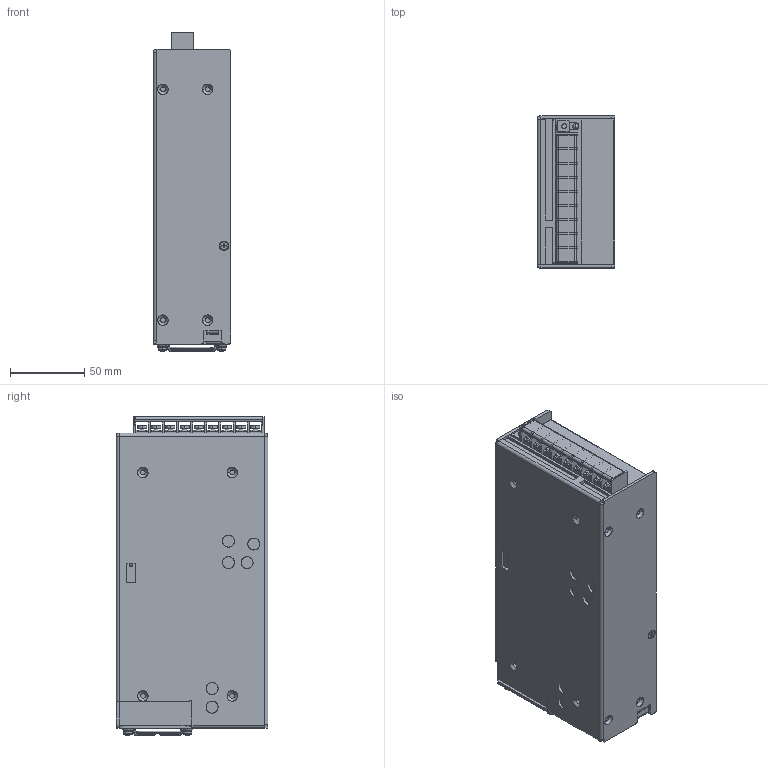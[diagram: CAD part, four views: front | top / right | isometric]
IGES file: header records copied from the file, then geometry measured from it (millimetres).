
Start section: SolidWorks IGES file using analytic representation for surfaces
Global section: file name: C:\SWS300_OUTLINE.IGS; native system: SolidWorks 2006 by SolidWorks Corporation; preprocessor: SolidWorks 2006 by SolidWorks Corporation; author: 3444matsunaga; date: 060922.165413; units: millimetre
Bounding box: 52 x 102 x 214.1 mm (x, y, z)
Surface area: 89814.5 mm2 (no closed solid volume)
Topology: 0 solids, 0 shells, 1093 faces, 11436 edges, 11426 vertices
Faces by surface type: bspline 754, revolution 339
